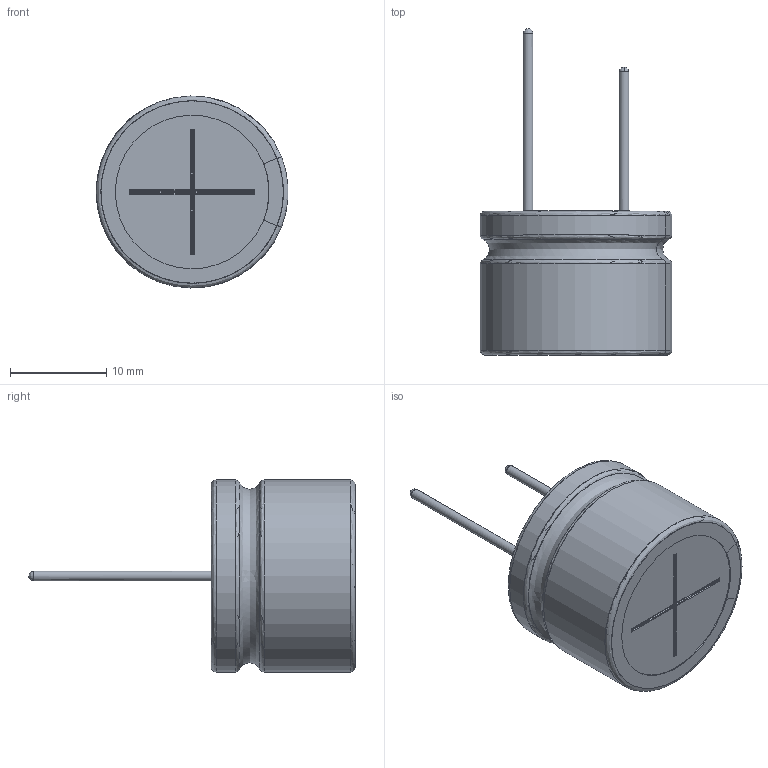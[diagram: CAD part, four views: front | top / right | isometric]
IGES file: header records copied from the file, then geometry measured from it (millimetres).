
Start section: JAMA-IS VERSION  1.0
Bounding box: 19.97 x 34 x 20 mm (x, y, z)
Surface area: 4016.7 mm2 (no closed solid volume)
Topology: 0 solids, 0 shells, 100 faces, 1336 edges, 1316 vertices
Faces by surface type: bspline 100
